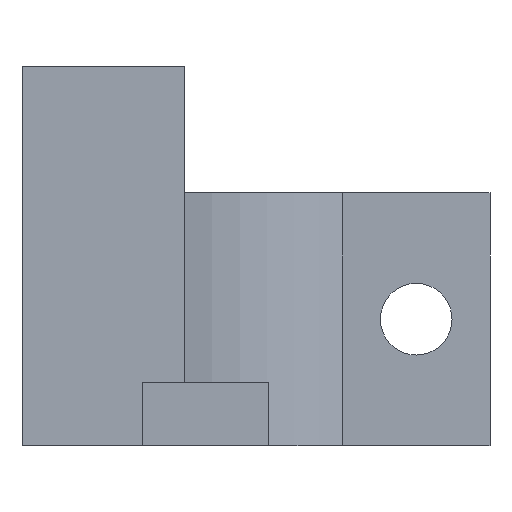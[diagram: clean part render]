
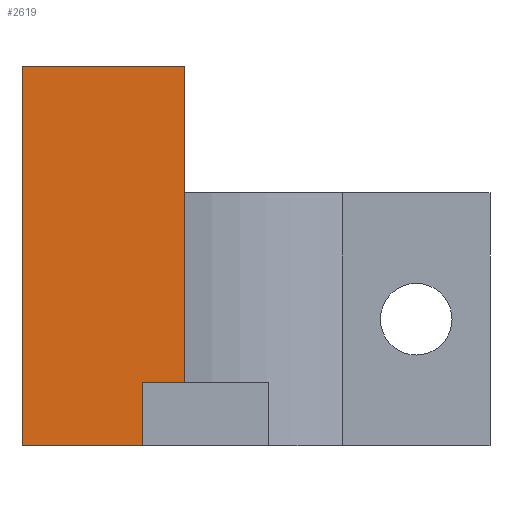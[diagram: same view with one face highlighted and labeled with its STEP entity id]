
A CAD part, left-side view. The second image highlights one B-rep face of the part: STEP entity #2619.
In plain terms, the highlighted planar face has unit normal (-1, 0, 0).
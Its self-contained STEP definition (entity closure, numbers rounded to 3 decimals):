
#22 = VERTEX_POINT('',#23);
#23 = CARTESIAN_POINT('',(8.,22.2,0.));
#32 = PLANE('',#33);
#33 = AXIS2_PLACEMENT_3D('',#34,#35,#36);
#34 = CARTESIAN_POINT('',(8.,14.5,0.));
#35 = DIRECTION('',(0.,0.,1.));
#36 = DIRECTION('',(1.,0.,0.));
#44 = PLANE('',#45);
#45 = AXIS2_PLACEMENT_3D('',#46,#47,#48);
#46 = CARTESIAN_POINT('',(8.,22.2,0.));
#47 = DIRECTION('',(0.,1.,0.));
#48 = DIRECTION('',(0.,0.,1.));
#56 = EDGE_CURVE('',#57,#22,#59,.T.);
#57 = VERTEX_POINT('',#58);
#58 = CARTESIAN_POINT('',(8.,16.5,0.));
#59 = SURFACE_CURVE('',#60,(#64,#71),.PCURVE_S1.);
#60 = LINE('',#61,#62);
#61 = CARTESIAN_POINT('',(8.,14.5,0.));
#62 = VECTOR('',#63,1.);
#63 = DIRECTION('',(0.,1.,0.));
#64 = PCURVE('',#32,#65);
#65 = DEFINITIONAL_REPRESENTATION('',(#66),#70);
#66 = LINE('',#67,#68);
#67 = CARTESIAN_POINT('',(0.,0.));
#68 = VECTOR('',#69,1.);
#69 = DIRECTION('',(0.,1.));
#70 = ( GEOMETRIC_REPRESENTATION_CONTEXT(2) 
PARAMETRIC_REPRESENTATION_CONTEXT() REPRESENTATION_CONTEXT('2D SPACE',''
  ) );
#71 = PCURVE('',#72,#77);
#72 = PLANE('',#73);
#73 = AXIS2_PLACEMENT_3D('',#74,#75,#76);
#74 = CARTESIAN_POINT('',(8.,14.5,0.));
#75 = DIRECTION('',(1.,0.,0.));
#76 = DIRECTION('',(0.,0.,1.));
#77 = DEFINITIONAL_REPRESENTATION('',(#78),#82);
#78 = LINE('',#79,#80);
#79 = CARTESIAN_POINT('',(0.,0.));
#80 = VECTOR('',#81,1.);
#81 = DIRECTION('',(0.,-1.));
#82 = ( GEOMETRIC_REPRESENTATION_CONTEXT(2) 
PARAMETRIC_REPRESENTATION_CONTEXT() REPRESENTATION_CONTEXT('2D SPACE',''
  ) );
#100 = PLANE('',#101);
#101 = AXIS2_PLACEMENT_3D('',#102,#103,#104);
#102 = CARTESIAN_POINT('',(0.,16.5,0.));
#103 = DIRECTION('',(0.,1.,0.));
#104 = DIRECTION('',(0.,0.,1.));
#212 = PLANE('',#213);
#213 = AXIS2_PLACEMENT_3D('',#214,#215,#216);
#214 = CARTESIAN_POINT('',(8.,14.5,0.));
#215 = DIRECTION('',(0.,1.,0.));
#216 = DIRECTION('',(0.,0.,1.));
#878 = EDGE_CURVE('',#22,#879,#881,.T.);
#879 = VERTEX_POINT('',#880);
#880 = CARTESIAN_POINT('',(8.,22.2,18.));
#881 = SURFACE_CURVE('',#882,(#886,#893),.PCURVE_S1.);
#882 = LINE('',#883,#884);
#883 = CARTESIAN_POINT('',(8.,22.2,0.));
#884 = VECTOR('',#885,1.);
#885 = DIRECTION('',(0.,0.,1.));
#886 = PCURVE('',#44,#887);
#887 = DEFINITIONAL_REPRESENTATION('',(#888),#892);
#888 = LINE('',#889,#890);
#889 = CARTESIAN_POINT('',(0.,0.));
#890 = VECTOR('',#891,1.);
#891 = DIRECTION('',(1.,0.));
#892 = ( GEOMETRIC_REPRESENTATION_CONTEXT(2) 
PARAMETRIC_REPRESENTATION_CONTEXT() REPRESENTATION_CONTEXT('2D SPACE',''
  ) );
#893 = PCURVE('',#72,#894);
#894 = DEFINITIONAL_REPRESENTATION('',(#895),#899);
#895 = LINE('',#896,#897);
#896 = CARTESIAN_POINT('',(0.,-7.7));
#897 = VECTOR('',#898,1.);
#898 = DIRECTION('',(1.,0.));
#899 = ( GEOMETRIC_REPRESENTATION_CONTEXT(2) 
PARAMETRIC_REPRESENTATION_CONTEXT() REPRESENTATION_CONTEXT('2D SPACE',''
  ) );
#917 = PLANE('',#918);
#918 = AXIS2_PLACEMENT_3D('',#919,#920,#921);
#919 = CARTESIAN_POINT('',(8.,14.5,18.));
#920 = DIRECTION('',(0.,0.,1.));
#921 = DIRECTION('',(1.,0.,0.));
#1665 = VERTEX_POINT('',#1666);
#1666 = CARTESIAN_POINT('',(8.,14.5,3.));
#1680 = PLANE('',#1681);
#1681 = AXIS2_PLACEMENT_3D('',#1682,#1683,#1684);
#1682 = CARTESIAN_POINT('',(0.,10.5,3.));
#1683 = DIRECTION('',(0.,0.,1.));
#1684 = DIRECTION('',(1.,0.,0.));
#1692 = EDGE_CURVE('',#1665,#1693,#1695,.T.);
#1693 = VERTEX_POINT('',#1694);
#1694 = CARTESIAN_POINT('',(8.,14.5,18.));
#1695 = SURFACE_CURVE('',#1696,(#1700,#1707),.PCURVE_S1.);
#1696 = LINE('',#1697,#1698);
#1697 = CARTESIAN_POINT('',(8.,14.5,0.));
#1698 = VECTOR('',#1699,1.);
#1699 = DIRECTION('',(0.,0.,1.));
#1700 = PCURVE('',#212,#1701);
#1701 = DEFINITIONAL_REPRESENTATION('',(#1702),#1706);
#1702 = LINE('',#1703,#1704);
#1703 = CARTESIAN_POINT('',(0.,0.));
#1704 = VECTOR('',#1705,1.);
#1705 = DIRECTION('',(1.,0.));
#1706 = ( GEOMETRIC_REPRESENTATION_CONTEXT(2) 
PARAMETRIC_REPRESENTATION_CONTEXT() REPRESENTATION_CONTEXT('2D SPACE',''
  ) );
#1707 = PCURVE('',#72,#1708);
#1708 = DEFINITIONAL_REPRESENTATION('',(#1709),#1713);
#1709 = LINE('',#1710,#1711);
#1710 = CARTESIAN_POINT('',(0.,0.));
#1711 = VECTOR('',#1712,1.);
#1712 = DIRECTION('',(1.,0.));
#1713 = ( GEOMETRIC_REPRESENTATION_CONTEXT(2) 
PARAMETRIC_REPRESENTATION_CONTEXT() REPRESENTATION_CONTEXT('2D SPACE',''
  ) );
#2619 = ADVANCED_FACE('',(#2620),#72,.F.);
#2620 = FACE_BOUND('',#2621,.F.);
#2621 = EDGE_LOOP('',(#2622,#2623,#2646,#2667,#2668,#2669));
#2622 = ORIENTED_EDGE('',*,*,#1692,.F.);
#2623 = ORIENTED_EDGE('',*,*,#2624,.F.);
#2624 = EDGE_CURVE('',#2625,#1665,#2627,.T.);
#2625 = VERTEX_POINT('',#2626);
#2626 = CARTESIAN_POINT('',(8.,16.5,3.));
#2627 = SURFACE_CURVE('',#2628,(#2632,#2639),.PCURVE_S1.);
#2628 = LINE('',#2629,#2630);
#2629 = CARTESIAN_POINT('',(8.,12.5,3.));
#2630 = VECTOR('',#2631,1.);
#2631 = DIRECTION('',(0.,-1.,0.));
#2632 = PCURVE('',#72,#2633);
#2633 = DEFINITIONAL_REPRESENTATION('',(#2634),#2638);
#2634 = LINE('',#2635,#2636);
#2635 = CARTESIAN_POINT('',(3.,2.));
#2636 = VECTOR('',#2637,1.);
#2637 = DIRECTION('',(0.,1.));
#2638 = ( GEOMETRIC_REPRESENTATION_CONTEXT(2) 
PARAMETRIC_REPRESENTATION_CONTEXT() REPRESENTATION_CONTEXT('2D SPACE',''
  ) );
#2639 = PCURVE('',#1680,#2640);
#2640 = DEFINITIONAL_REPRESENTATION('',(#2641),#2645);
#2641 = LINE('',#2642,#2643);
#2642 = CARTESIAN_POINT('',(8.,2.));
#2643 = VECTOR('',#2644,1.);
#2644 = DIRECTION('',(0.,-1.));
#2645 = ( GEOMETRIC_REPRESENTATION_CONTEXT(2) 
PARAMETRIC_REPRESENTATION_CONTEXT() REPRESENTATION_CONTEXT('2D SPACE',''
  ) );
#2646 = ORIENTED_EDGE('',*,*,#2647,.F.);
#2647 = EDGE_CURVE('',#57,#2625,#2648,.T.);
#2648 = SURFACE_CURVE('',#2649,(#2653,#2660),.PCURVE_S1.);
#2649 = LINE('',#2650,#2651);
#2650 = CARTESIAN_POINT('',(8.,16.5,0.));
#2651 = VECTOR('',#2652,1.);
#2652 = DIRECTION('',(0.,0.,1.));
#2653 = PCURVE('',#72,#2654);
#2654 = DEFINITIONAL_REPRESENTATION('',(#2655),#2659);
#2655 = LINE('',#2656,#2657);
#2656 = CARTESIAN_POINT('',(0.,-2.));
#2657 = VECTOR('',#2658,1.);
#2658 = DIRECTION('',(1.,0.));
#2659 = ( GEOMETRIC_REPRESENTATION_CONTEXT(2) 
PARAMETRIC_REPRESENTATION_CONTEXT() REPRESENTATION_CONTEXT('2D SPACE',''
  ) );
#2660 = PCURVE('',#100,#2661);
#2661 = DEFINITIONAL_REPRESENTATION('',(#2662),#2666);
#2662 = LINE('',#2663,#2664);
#2663 = CARTESIAN_POINT('',(0.,8.));
#2664 = VECTOR('',#2665,1.);
#2665 = DIRECTION('',(1.,0.));
#2666 = ( GEOMETRIC_REPRESENTATION_CONTEXT(2) 
PARAMETRIC_REPRESENTATION_CONTEXT() REPRESENTATION_CONTEXT('2D SPACE',''
  ) );
#2667 = ORIENTED_EDGE('',*,*,#56,.T.);
#2668 = ORIENTED_EDGE('',*,*,#878,.T.);
#2669 = ORIENTED_EDGE('',*,*,#2670,.F.);
#2670 = EDGE_CURVE('',#1693,#879,#2671,.T.);
#2671 = SURFACE_CURVE('',#2672,(#2676,#2683),.PCURVE_S1.);
#2672 = LINE('',#2673,#2674);
#2673 = CARTESIAN_POINT('',(8.,14.5,18.));
#2674 = VECTOR('',#2675,1.);
#2675 = DIRECTION('',(0.,1.,0.));
#2676 = PCURVE('',#72,#2677);
#2677 = DEFINITIONAL_REPRESENTATION('',(#2678),#2682);
#2678 = LINE('',#2679,#2680);
#2679 = CARTESIAN_POINT('',(18.,0.));
#2680 = VECTOR('',#2681,1.);
#2681 = DIRECTION('',(0.,-1.));
#2682 = ( GEOMETRIC_REPRESENTATION_CONTEXT(2) 
PARAMETRIC_REPRESENTATION_CONTEXT() REPRESENTATION_CONTEXT('2D SPACE',''
  ) );
#2683 = PCURVE('',#917,#2684);
#2684 = DEFINITIONAL_REPRESENTATION('',(#2685),#2689);
#2685 = LINE('',#2686,#2687);
#2686 = CARTESIAN_POINT('',(0.,0.));
#2687 = VECTOR('',#2688,1.);
#2688 = DIRECTION('',(0.,1.));
#2689 = ( GEOMETRIC_REPRESENTATION_CONTEXT(2) 
PARAMETRIC_REPRESENTATION_CONTEXT() REPRESENTATION_CONTEXT('2D SPACE',''
  ) );
